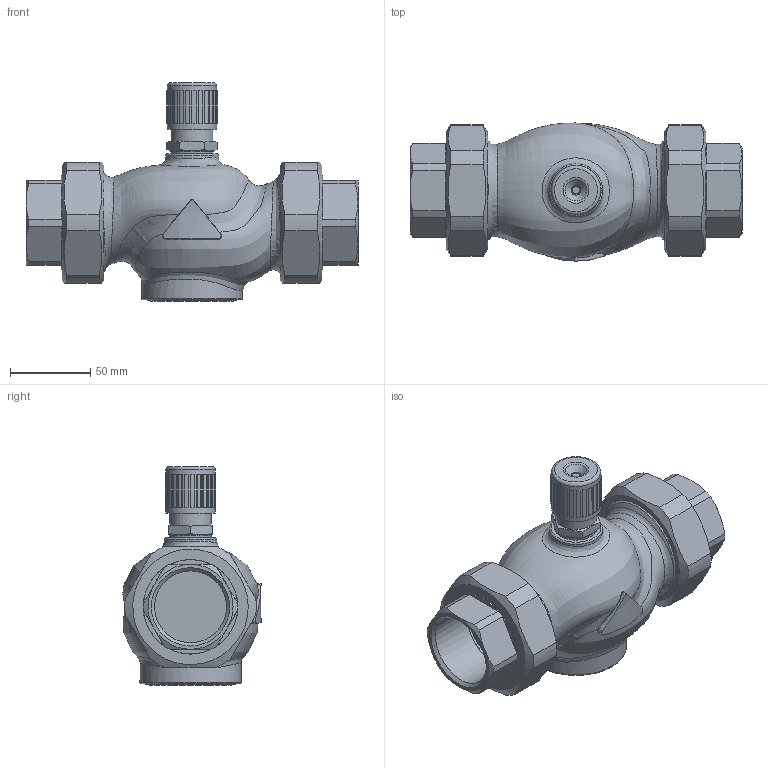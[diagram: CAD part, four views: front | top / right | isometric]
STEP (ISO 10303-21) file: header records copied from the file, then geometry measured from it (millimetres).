
FILE_DESCRIPTION(/* description */ (''),/* implementation_level */ '2;1');
FILE_NAME(/* name */ 'rv111r_dn40_2_T.stp',/* time_stamp */ '2012-01-24T15:44:25+01:00',/* author */ ('KLIMES'),/* organization */ ('LDM'),/* preprocessor_version */ 'ST-DEVELOPER v11',/* originating_system */ 'SIEMENS PLM Software NX 7.0',/* authorisation */ '');
FILE_SCHEMA (('CONFIG_CONTROL_DESIGN'));
Length unit declared in the file: millimetre
Products named in the file (1): klim5390b4an
Bounding box: 207 x 86.15 x 136.45 mm (x, y, z)
Volume: 785589.1 mm3; surface area: 113932.9 mm2
Topology: 8 solids, 8 shells, 319 faces, 743 edges, 477 vertices
Faces by surface type: plane 171, cone 65, cylinder 43, bspline 26, torus 14
Full cylindrical faces by diameter (mm): 8 x1, 23.4 x1, 24.117 x1, 26 x1, 26.5 x1, 30.8 x1, 33 x1, 44.845 x2, 50 x4, 56 x1, 58.8 x2, 59 x2, 62 x2, 62.6 x2, 62.752 x2, 63 x1, 65.71 x2
Entity records: 14896 total; most frequent: CARTESIAN_POINT 8022, DIRECTION 1386, ORIENTED_EDGE 1318, EDGE_CURVE 659, AXIS2_PLACEMENT_3D 561, VERTEX_POINT 452, EDGE_LOOP 427, ADVANCED_FACE 319
